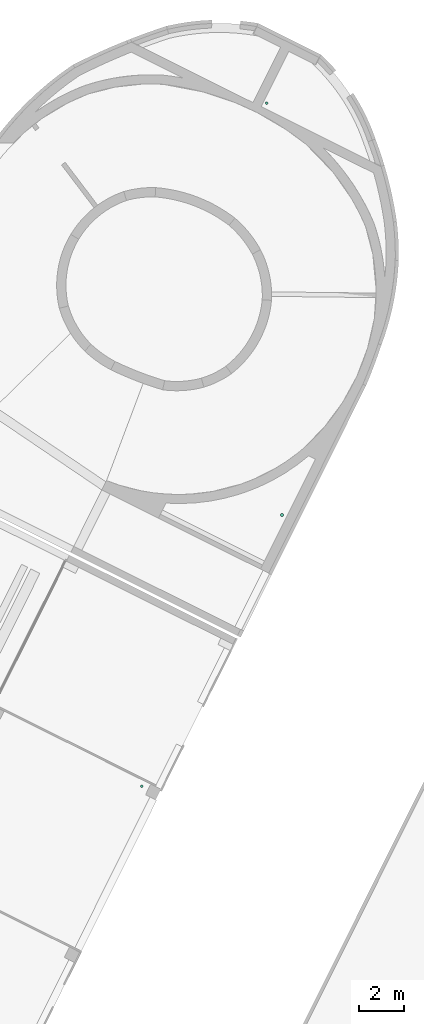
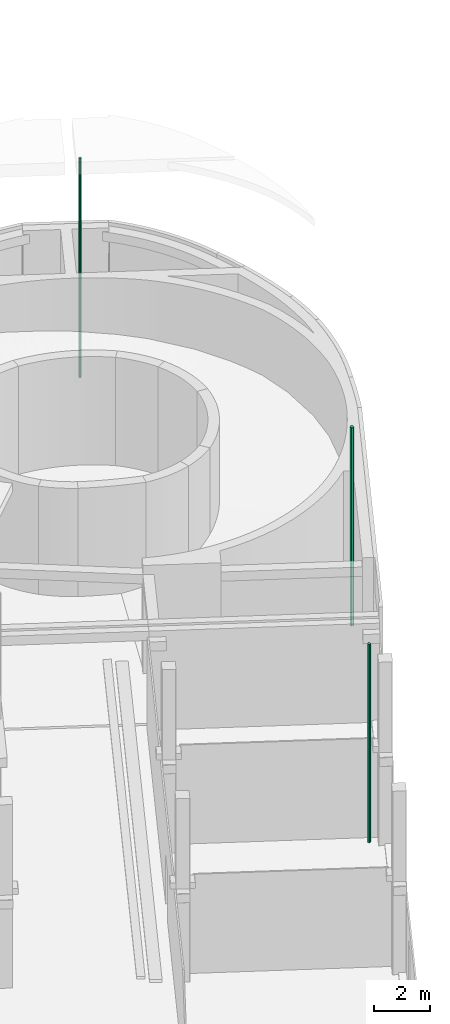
# One storey, part 69 of 91: 3 flow segments.
"""IFC2X3 building model written with IfcOpenShell, lengths in metres."""

from ifc_helpers import new_model, entity, si_unit, converted_unit, derived_unit, direction, frame, origin, origin_2d_with_axis, place, context, subcontext, project, spatial, circle, extrude, type_object, element, save


model = new_model("IFC2X3")

# Units and contexts
model_context = context("Model", 3, precision=1e-05, world=origin(), true_north=direction((0.894925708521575, 0.446215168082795)))
context_of_model = context(None, 3, precision=1e-05, world=origin(), true_north=direction((0.894925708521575, 0.446215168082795)))
body_context = subcontext(model_context, "Body", "Model", "MODEL_VIEW")
ifc_project = project(units=[si_unit("LENGTHUNIT", "METRE"), si_unit("AREAUNIT", "SQUARE_METRE"), si_unit("VOLUMEUNIT", "CUBIC_METRE"), converted_unit("PLANEANGLEUNIT", "DEGREE", entity("IfcRatioMeasure", 0.0174532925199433), si_unit("PLANEANGLEUNIT", "RADIAN"), dimensions=[0, 0, 0, 0, 0, 0, 0]), si_unit("MASSUNIT", "GRAM", prefix="KILO"), si_unit("TIMEUNIT", "SECOND"), si_unit("FREQUENCYUNIT", "HERTZ"), si_unit("THERMODYNAMICTEMPERATUREUNIT", "DEGREE_CELSIUS"), derived_unit("THERMALTRANSMITTANCEUNIT", [(si_unit("MASSUNIT", "GRAM", prefix="KILO"), 1), (si_unit("THERMODYNAMICTEMPERATUREUNIT", "KELVIN"), -1), (si_unit("TIMEUNIT", "SECOND"), -3)]), derived_unit("VOLUMETRICFLOWRATEUNIT", [(si_unit("LENGTHUNIT", "METRE"), 3), (si_unit("TIMEUNIT", "SECOND"), -1)]), si_unit("ELECTRICCURRENTUNIT", "AMPERE"), si_unit("ELECTRICVOLTAGEUNIT", "VOLT"), si_unit("POWERUNIT", "WATT"), si_unit("FORCEUNIT", "NEWTON", prefix="KILO"), si_unit("ILLUMINANCEUNIT", "LUX"), si_unit("LUMINOUSFLUXUNIT", "LUMEN"), si_unit("LUMINOUSINTENSITYUNIT", "CANDELA"), si_unit("PRESSUREUNIT", "PASCAL")], contexts=[model_context, context_of_model])

# Site, building, storey
site_placement = place(None, frame((218.228324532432, 584.720189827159, 0.0), z_axis=(0.0, 0.0, 1.0), x_axis=(0.446215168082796, 0.894925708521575, 0.0)))
site = spatial("IfcSite", under=ifc_project, at=site_placement, Name="Default", CompositionType="ELEMENT")
building_placement = place(site_placement, origin())
building = spatial("IfcBuilding", under=site, at=building_placement, CompositionType="ELEMENT")
storey_placement = place(building_placement, origin())
storey = spatial("IfcBuildingStorey", under=building, at=storey_placement, Name="0 - Piano Terra", CompositionType="ELEMENT", Elevation=0.0)

# Flow segments
pipe_segment_type = type_object("IfcPipeSegmentType", Name="Tubazione:Pluviale-Tubazione", PredefinedType="NOTDEFINED")
flow_segment_1_placement = place(storey_placement, frame((51.0995977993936, -12.4398242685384, 0.0)))
element("IfcFlowSegment", 1, at=flow_segment_1_placement, inside=storey, type_object=pipe_segment_type, Name="Tubazione:Pluviale-Tubazione", ObjectType="Tubazione:Pluviale-Tubazione", context=body_context, shape_type="SweptSolid", body=[
    extrude(circle(Radius=0.05715, at=origin_2d_with_axis()), frame((0.0587452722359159, 0.0587452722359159, 0.0)), (0.0, 0.0, 1.0), 8.6),
])
flow_segment_2_placement = place(storey_placement, frame((64.5160765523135, -12.6580448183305, 0.0)))
element("IfcFlowSegment", 2, at=flow_segment_2_placement, inside=storey, type_object=pipe_segment_type, Name="Tubazione:Pluviale-Tubazione", ObjectType="Tubazione:Pluviale-Tubazione", context=body_context, shape_type="SweptSolid", body=[
    extrude(circle(Radius=0.0706501, at=origin_2d_with_axis()), frame((0.0722453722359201, 0.0722453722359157, 0.0)), (0.0, 0.0, 1.0), 8.6),
])
flow_segment_3_placement = place(storey_placement, frame((80.4388360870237, -3.95343808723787, 0.0)))
element("IfcFlowSegment", 3, at=flow_segment_3_placement, inside=storey, type_object=pipe_segment_type, Name="Tubazione:Pluviale-Tubazione", ObjectType="Tubazione:Pluviale-Tubazione", context=body_context, shape_type="SweptSolid", body=[
    extrude(circle(Radius=0.05715, at=origin_2d_with_axis()), frame((0.0587452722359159, 0.0587452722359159, 0.0)), (0.0, 0.0, 1.0), 9.49),
])

save(model, "model.ifc")
